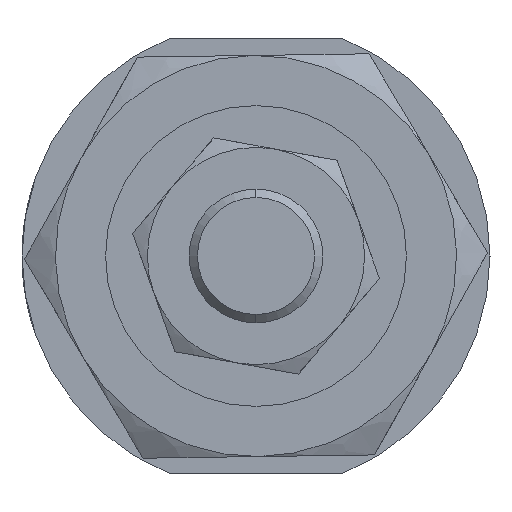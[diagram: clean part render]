
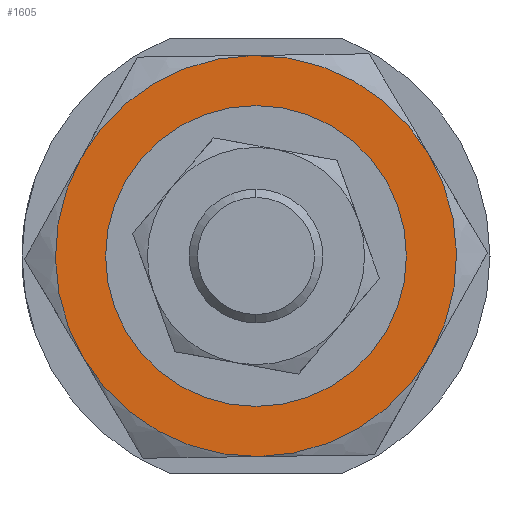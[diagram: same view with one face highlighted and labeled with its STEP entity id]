
A CAD part, left-side view. The second image highlights one B-rep face of the part: STEP entity #1605.
In plain terms, the highlighted planar face has unit normal (-1, 0, 0) as drawn and (0, 0, -1) by its records, which use the part's own axes.
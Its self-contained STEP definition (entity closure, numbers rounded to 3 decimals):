
#14 = EDGE_CURVE ( 'NONE', #1028, #782, #127, .T. ) ;
#105 = EDGE_CURVE ( 'NONE', #2669, #2477, #2815, .T. ) ;
#127 = CIRCLE ( 'NONE', #593, 12. ) ;
#248 = EDGE_CURVE ( 'NONE', #1504, #1785, #1324, .T. ) ;
#332 = CARTESIAN_POINT ( 'NONE',  ( 6., 10.392, -4. ) ) ;
#434 = CARTESIAN_POINT ( 'NONE',  ( -8.25, 0., -4. ) ) ;
#460 = AXIS2_PLACEMENT_3D ( 'NONE', #2787, #2839, #1441 ) ;
#488 = VERTEX_POINT ( 'NONE', #434 ) ;
#556 = FACE_BOUND ( 'NONE', #1377, .T. ) ;
#593 = AXIS2_PLACEMENT_3D ( 'NONE', #2955, #1989, #655 ) ;
#630 = DIRECTION ( 'NONE',  ( 0., 0., 1. ) ) ;
#655 = DIRECTION ( 'NONE',  ( 1., 0., 0. ) ) ;
#695 = CARTESIAN_POINT ( 'NONE',  ( -6., -10.392, -4. ) ) ;
#780 = AXIS2_PLACEMENT_3D ( 'NONE', #864, #630, #1772 ) ;
#782 = VERTEX_POINT ( 'NONE', #332 ) ;
#860 = CARTESIAN_POINT ( 'NONE',  ( 0., 0., -4. ) ) ;
#864 = CARTESIAN_POINT ( 'NONE',  ( 0., 0., -4. ) ) ;
#867 = AXIS2_PLACEMENT_3D ( 'NONE', #860, #2613, #2007 ) ;
#1027 = ORIENTED_EDGE ( 'NONE', *, *, #14, .F. ) ;
#1028 = VERTEX_POINT ( 'NONE', #2791 ) ;
#1039 = DIRECTION ( 'NONE',  ( 1., 0., 0. ) ) ;
#1044 = DIRECTION ( 'NONE',  ( 0., 0., 1. ) ) ;
#1090 = CIRCLE ( 'NONE', #460, 12. ) ;
#1226 = FACE_OUTER_BOUND ( 'NONE', #1848, .T. ) ;
#1232 = CARTESIAN_POINT ( 'NONE',  ( 0., 0., -4. ) ) ;
#1258 = CARTESIAN_POINT ( 'NONE',  ( -12., 0., -4. ) ) ;
#1324 = CIRCLE ( 'NONE', #780, 12. ) ;
#1337 = DIRECTION ( 'NONE',  ( 1., 0., 0. ) ) ;
#1377 = EDGE_LOOP ( 'NONE', ( #2834, #1533 ) ) ;
#1420 = CIRCLE ( 'NONE', #867, 8.25 ) ;
#1441 = DIRECTION ( 'NONE',  ( 1., 0., 0. ) ) ;
#1504 = VERTEX_POINT ( 'NONE', #695 ) ;
#1533 = ORIENTED_EDGE ( 'NONE', *, *, #2170, .T. ) ;
#1554 = CARTESIAN_POINT ( 'NONE',  ( 0., 0., -4. ) ) ;
#1577 = CIRCLE ( 'NONE', #1873, 12. ) ;
#1605 = ADVANCED_FACE ( 'NONE', ( #556, #1226 ), #2687, .F. ) ;
#1660 = CIRCLE ( 'NONE', #1686, 12. ) ;
#1664 = EDGE_CURVE ( 'NONE', #1785, #1028, #1577, .T. ) ;
#1686 = AXIS2_PLACEMENT_3D ( 'NONE', #1776, #2928, #2664 ) ;
#1713 = DIRECTION ( 'NONE',  ( 1., 0., 0. ) ) ;
#1772 = DIRECTION ( 'NONE',  ( 1., 0., 0. ) ) ;
#1776 = CARTESIAN_POINT ( 'NONE',  ( 0., 0., -4. ) ) ;
#1785 = VERTEX_POINT ( 'NONE', #2909 ) ;
#1846 = CARTESIAN_POINT ( 'NONE',  ( 0., 0., -4. ) ) ;
#1848 = EDGE_LOOP ( 'NONE', ( #1027, #2895, #2558, #2430, #2940, #2444 ) ) ;
#1873 = AXIS2_PLACEMENT_3D ( 'NONE', #1846, #2597, #1039 ) ;
#1901 = AXIS2_PLACEMENT_3D ( 'NONE', #2659, #2980, #1713 ) ;
#1937 = AXIS2_PLACEMENT_3D ( 'NONE', #1232, #1044, #2797 ) ;
#1975 = EDGE_CURVE ( 'NONE', #2477, #1504, #1660, .T. ) ;
#1989 = DIRECTION ( 'NONE',  ( 0., 0., 1. ) ) ;
#2007 = DIRECTION ( 'NONE',  ( 1., 0., 0. ) ) ;
#2018 = AXIS2_PLACEMENT_3D ( 'NONE', #1554, #2497, #1337 ) ;
#2170 = EDGE_CURVE ( 'NONE', #488, #3074, #2462, .T. ) ;
#2180 = CARTESIAN_POINT ( 'NONE',  ( 8.25, 0., -4. ) ) ;
#2257 = CARTESIAN_POINT ( 'NONE',  ( -6., 10.392, -4. ) ) ;
#2430 = ORIENTED_EDGE ( 'NONE', *, *, #1975, .F. ) ;
#2444 = ORIENTED_EDGE ( 'NONE', *, *, #3054, .F. ) ;
#2462 = CIRCLE ( 'NONE', #1901, 8.25 ) ;
#2477 = VERTEX_POINT ( 'NONE', #1258 ) ;
#2497 = DIRECTION ( 'NONE',  ( 0., 0., 1. ) ) ;
#2558 = ORIENTED_EDGE ( 'NONE', *, *, #248, .F. ) ;
#2597 = DIRECTION ( 'NONE',  ( 0., 0., 1. ) ) ;
#2613 = DIRECTION ( 'NONE',  ( 0., 0., 1. ) ) ;
#2659 = CARTESIAN_POINT ( 'NONE',  ( 0., 0., -4. ) ) ;
#2661 = EDGE_CURVE ( 'NONE', #3074, #488, #1420, .T. ) ;
#2664 = DIRECTION ( 'NONE',  ( 1., 0., 0. ) ) ;
#2669 = VERTEX_POINT ( 'NONE', #2257 ) ;
#2687 = PLANE ( 'NONE',  #2018 ) ;
#2787 = CARTESIAN_POINT ( 'NONE',  ( 0., 0., -4. ) ) ;
#2791 = CARTESIAN_POINT ( 'NONE',  ( 12., 0., -4. ) ) ;
#2797 = DIRECTION ( 'NONE',  ( 1., 0., 0. ) ) ;
#2815 = CIRCLE ( 'NONE', #1937, 12. ) ;
#2834 = ORIENTED_EDGE ( 'NONE', *, *, #2661, .T. ) ;
#2839 = DIRECTION ( 'NONE',  ( 0., 0., 1. ) ) ;
#2895 = ORIENTED_EDGE ( 'NONE', *, *, #1664, .F. ) ;
#2909 = CARTESIAN_POINT ( 'NONE',  ( 6., -10.392, -4. ) ) ;
#2928 = DIRECTION ( 'NONE',  ( 0., 0., 1. ) ) ;
#2940 = ORIENTED_EDGE ( 'NONE', *, *, #105, .F. ) ;
#2955 = CARTESIAN_POINT ( 'NONE',  ( 0., 0., -4. ) ) ;
#2980 = DIRECTION ( 'NONE',  ( 0., 0., 1. ) ) ;
#3054 = EDGE_CURVE ( 'NONE', #782, #2669, #1090, .T. ) ;
#3074 = VERTEX_POINT ( 'NONE', #2180 ) ;
